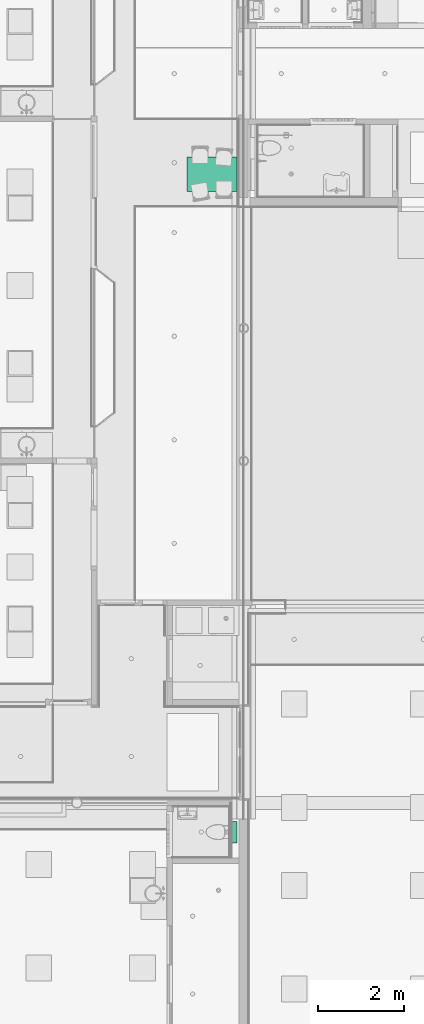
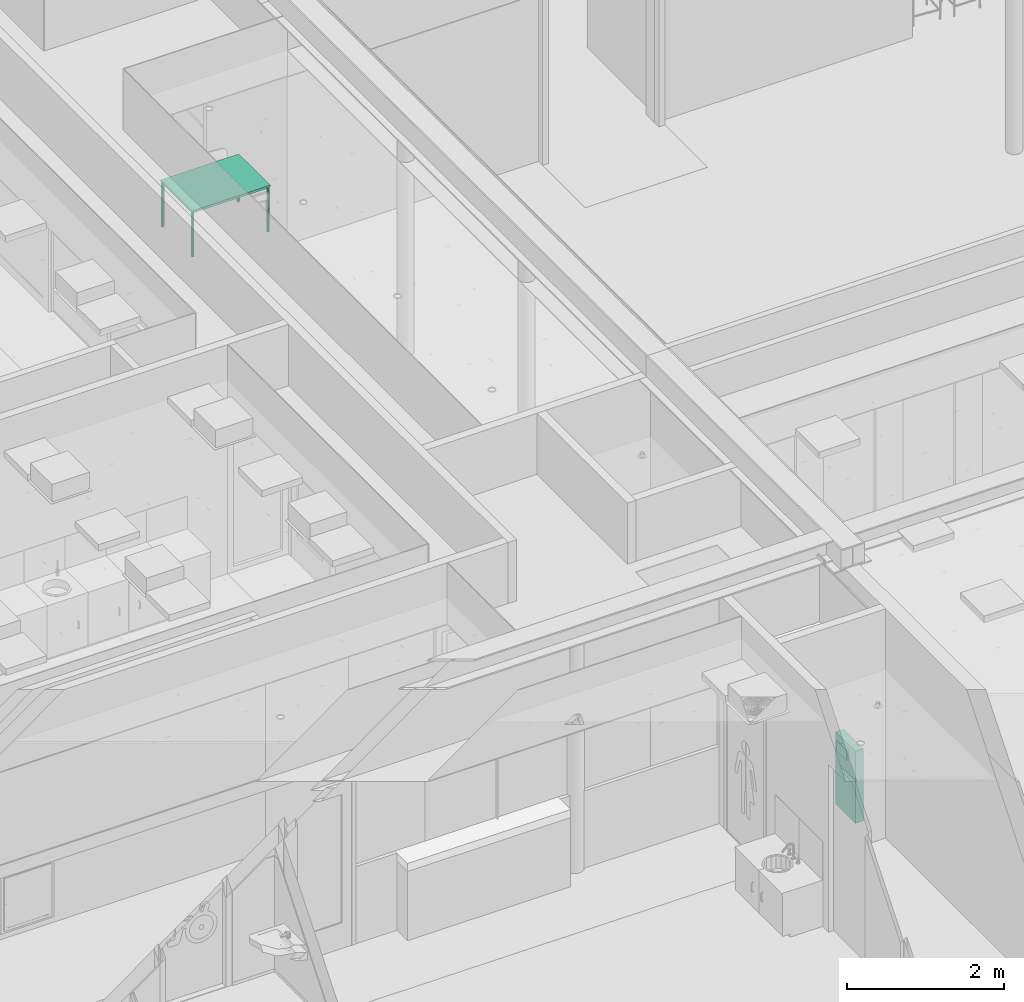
# One storey, part 178 of 347: 1 distribution element, 1 flow terminal.
"""IFC2X3 building model written with IfcOpenShell, lengths in millimetres."""

from ifc_helpers import new_model, entity, si_unit, converted_unit, derived_unit, money_unit, direction, frame, origin_with_axes, place, context, subcontext, project, spatial, open_shell, faceted_brep, surface_model, source, transform, mapped, type_object, type_shapes, element, save


model = new_model("IFC2X3")

# Units and contexts
model_context = context("Model", 3, precision=0.01, world=origin_with_axes(), true_north=direction((0.0, 1.0)))
plan_context = context("Plan", 3, precision=0.01, world=origin_with_axes(), true_north=direction((0.0, 1.0)))
body_context = subcontext(model_context, "Body", "Model", "MODEL_VIEW")
ifc_project = project(units=[si_unit("LENGTHUNIT", "METRE", prefix="MILLI"), si_unit("AREAUNIT", "SQUARE_METRE"), si_unit("VOLUMEUNIT", "CUBIC_METRE"), converted_unit("PLANEANGLEUNIT", "DEGREE", entity("IfcPlaneAngleMeasure", 0.0174532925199), si_unit("PLANEANGLEUNIT", "RADIAN"), dimensions=[0, 0, 0, 0, 0, 0, 0]), money_unit("EUR"), converted_unit("TIMEUNIT", "Year", entity("IfcTimeMeasure", 31556926.0), si_unit("TIMEUNIT", "SECOND"), dimensions=[0, 0, 1, 0, 0, 0, 0]), si_unit("MASSUNIT", "GRAM", prefix="KILO"), si_unit("THERMODYNAMICTEMPERATUREUNIT", "DEGREE_CELSIUS"), si_unit("LUMINOUSINTENSITYUNIT", "LUMEN"), si_unit("ENERGYUNIT", "JOULE", prefix="MEGA"), derived_unit("THERMALCONDUCTANCEUNIT", [(si_unit("POWERUNIT", "WATT"), 1), (si_unit("LENGTHUNIT", "METRE"), -1), (si_unit("THERMODYNAMICTEMPERATUREUNIT", "KELVIN"), -1)]), derived_unit("SPECIFICHEATCAPACITYUNIT", [(si_unit("ENERGYUNIT", "JOULE"), 1), (si_unit("MASSUNIT", "GRAM", prefix="KILO"), -1), (si_unit("THERMODYNAMICTEMPERATUREUNIT", "KELVIN"), -1)]), derived_unit("MASSDENSITYUNIT", [(si_unit("MASSUNIT", "GRAM", prefix="KILO"), 1), (si_unit("VOLUMEUNIT", "CUBIC_METRE"), -1)])], contexts=[model_context, plan_context])

# Site, building, storey
site_placement = place(None, origin_with_axes())
site = spatial("IfcSite", under=ifc_project, at=site_placement, Name="Site", CompositionType="ELEMENT")
building_placement = place(site_placement, origin_with_axes())
building = spatial("IfcBuilding", under=site, at=building_placement, Name="Naam gebouw", CompositionType="ELEMENT")
storey_placement = place(building_placement, origin_with_axes())
storey = spatial("IfcBuildingStorey", under=building, at=storey_placement, Name="begane grond", CompositionType="ELEMENT", Elevation=0.0)

# Flow terminal
sanitary_terminal_type = type_object("IfcSanitaryTerminalType", Name="Inbouwreservoir 25 KM", PredefinedType="CISTERN")
shared_shape_1 = source(origin_with_axes(), body_context, "Body", "SurfaceModel", [
    faceted_brep([(0.0, 0.0, 0.0), (500.0, 0.0, 0.0), (500.0, 0.0, 1120.0), (0.0, 0.0, 1120.0), (0.0, 120.0, 0.0), (500.0, 120.0, 0.0), (500.0, 120.0, 1120.0), (0.0, 120.0, 1120.0)], [[[0, 1, 2, 3]], [[0, 4, 5, 1]], [[1, 5, 6, 2]], [[3, 2, 6, 7]], [[4, 0, 3, 7]], [[5, 4, 7, 6]]]),
    surface_model("IfcShellBasedSurfaceModel", [(1.0, 0.0, 0.0), (499.0, 0.0, 0.0), (499.0, 120.0, 1120.0), (1.0, 120.0, 1120.0)], [open_shell([[[0, 1, 2, 3]]])]),
    surface_model("IfcShellBasedSurfaceModel", [(1.0, 0.0, 1120.0), (499.0, 0.0, 1120.0), (499.0, 120.0, 0.0), (1.0, 120.0, 0.0)], [open_shell([[[0, 1, 2, 3]]])]),
    faceted_brep([(375.0, -60.0, 920.0), (125.0, -60.0, 920.0), (125.0, -50.0, 920.0), (375.0, -50.0, 920.0), (375.0, -60.0, 1080.0), (125.0, -60.0, 1080.0), (125.0, -50.0, 1080.0), (375.0, -50.0, 1080.0)], [[[0, 1, 2, 3]], [[1, 0, 4, 5]], [[2, 1, 5, 6]], [[3, 2, 6, 7]], [[0, 3, 7, 4]], [[5, 4, 7, 6]]]),
    faceted_brep([(325.0, 0.0, 950.0), (175.0, 0.0, 950.0), (175.0, 0.0, 1050.0), (325.0, 0.0, 1050.0), (325.0, -50.0, 950.0), (175.0, -50.0, 950.0), (175.0, -50.0, 1050.0), (325.0, -50.0, 1050.0)], [[[0, 1, 2, 3]], [[1, 0, 4, 5]], [[2, 1, 5, 6]], [[3, 2, 6, 7]], [[0, 3, 7, 4]], [[5, 4, 7, 6]]]),
    surface_model("IfcShellBasedSurfaceModel", [(175.0, -60.0, 920.0), (325.0, -60.0, 920.0), (325.0, -60.0, 955.0), (175.0, -60.0, 955.0)], [open_shell([[[0, 1, 2, 3]]])]),
    surface_model("IfcShellBasedSurfaceModel", [(175.0, -60.0, 955.0), (265.0, -60.0, 955.0), (265.0, -60.0, 1045.0), (175.0, -60.0, 1045.0)], [open_shell([[[0, 1, 2, 3]]])]),
    surface_model("IfcShellBasedSurfaceModel", [(265.0, -60.0, 955.0), (325.0, -60.0, 955.0), (325.0, -60.0, 1045.0), (265.0, -60.0, 1045.0)], [open_shell([[[0, 1, 2, 3]]])]),
])
type_shapes(sanitary_terminal_type, [shared_shape_1])
flow_terminal_placement = place(storey_placement, frame((35325.0, 11700.0, 0.0), z_axis=(0.0, 0.0, 1.0), x_axis=(0.0, -1.0, 0.0)))
element("IfcFlowTerminal", 1, at=flow_terminal_placement, inside=storey, type_object=sanitary_terminal_type, Name="53_Sanitair-inbouw DuoFix", context=body_context, shape_type="MappedRepresentation", body=[
    mapped(shared_shape_1, transform((0.0, 0.0, 0.0))),
])

# Distribution element
distribution_element_type = type_object("IfcDistributionElementType", Name="Tafel rechthoekig 01 25")
shared_shape_2 = source(origin_with_axes(), body_context, "Body", "Brep", [
    faceted_brep([(37.3205080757, 10.0, 0.0), (30.0, 2.67949192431, 0.0), (20.0, 0.0, 0.0), (10.0, 2.67949192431, 0.0), (2.67949192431, 10.0, 0.0), (0.0, 20.0, 0.0), (2.67949192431, 30.0, 0.0), (10.0, 37.3205080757, 0.0), (20.0, 40.0, 0.0), (30.0, 37.3205080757, 0.0), (37.3205080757, 30.0, 0.0), (40.0, 20.0, 0.0), (37.3205080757, 10.0, 700.0), (30.0, 2.67949192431, 700.0), (20.0, 0.0, 700.0), (10.0, 2.67949192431, 700.0), (2.67949192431, 10.0, 700.0), (0.0, 20.0, 700.0), (2.67949192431, 30.0, 700.0), (10.0, 37.3205080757, 700.0), (20.0, 40.0, 700.0), (30.0, 37.3205080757, 700.0), (37.3205080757, 30.0, 700.0), (40.0, 20.0, 700.0)], [[[0, 1, 2, 3, 4, 5, 6, 7, 8, 9, 10, 11]], [[1, 0, 12, 13]], [[2, 1, 13, 14]], [[3, 2, 14, 15]], [[4, 3, 15, 16]], [[5, 4, 16, 17]], [[6, 5, 17, 18]], [[7, 6, 18, 19]], [[8, 7, 19, 20]], [[9, 8, 20, 21]], [[10, 9, 21, 22]], [[11, 10, 22, 23]], [[0, 11, 23, 12]], [[12, 23, 22, 21, 20, 19, 18, 17, 16, 15, 14, 13]]]),
    faceted_brep([(1147.32050808, 10.0, 0.0), (1140.0, 2.67949192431, 0.0), (1130.0, 0.0, 0.0), (1120.0, 2.67949192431, 0.0), (1112.67949192, 10.0, 0.0), (1110.0, 20.0, 0.0), (1112.67949192, 30.0, 0.0), (1120.0, 37.3205080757, 0.0), (1130.0, 40.0, 0.0), (1140.0, 37.3205080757, 0.0), (1147.32050808, 30.0, 0.0), (1150.0, 20.0, 0.0), (1147.32050808, 10.0, 700.0), (1140.0, 2.67949192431, 700.0), (1130.0, 0.0, 700.0), (1120.0, 2.67949192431, 700.0), (1112.67949192, 10.0, 700.0), (1110.0, 20.0, 700.0), (1112.67949192, 30.0, 700.0), (1120.0, 37.3205080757, 700.0), (1130.0, 40.0, 700.0), (1140.0, 37.3205080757, 700.0), (1147.32050808, 30.0, 700.0), (1150.0, 20.0, 700.0)], [[[0, 1, 2, 3, 4, 5, 6, 7, 8, 9, 10, 11]], [[1, 0, 12, 13]], [[2, 1, 13, 14]], [[3, 2, 14, 15]], [[4, 3, 15, 16]], [[5, 4, 16, 17]], [[6, 5, 17, 18]], [[7, 6, 18, 19]], [[8, 7, 19, 20]], [[9, 8, 20, 21]], [[10, 9, 21, 22]], [[11, 10, 22, 23]], [[0, 11, 23, 12]], [[12, 23, 22, 21, 20, 19, 18, 17, 16, 15, 14, 13]]]),
    faceted_brep([(37.3205080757, 770.0, 0.0), (30.0, 762.679491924, 0.0), (20.0, 760.0, 0.0), (10.0, 762.679491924, 0.0), (2.67949192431, 770.0, 0.0), (0.0, 780.0, 0.0), (2.67949192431, 790.0, 0.0), (10.0, 797.320508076, 0.0), (20.0, 800.0, 0.0), (30.0, 797.320508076, 0.0), (37.3205080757, 790.0, 0.0), (40.0, 780.0, 0.0), (37.3205080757, 770.0, 700.0), (30.0, 762.679491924, 700.0), (20.0, 760.0, 700.0), (10.0, 762.679491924, 700.0), (2.67949192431, 770.0, 700.0), (0.0, 780.0, 700.0), (2.67949192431, 790.0, 700.0), (10.0, 797.320508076, 700.0), (20.0, 800.0, 700.0), (30.0, 797.320508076, 700.0), (37.3205080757, 790.0, 700.0), (40.0, 780.0, 700.0)], [[[0, 1, 2, 3, 4, 5, 6, 7, 8, 9, 10, 11]], [[1, 0, 12, 13]], [[2, 1, 13, 14]], [[3, 2, 14, 15]], [[4, 3, 15, 16]], [[5, 4, 16, 17]], [[6, 5, 17, 18]], [[7, 6, 18, 19]], [[8, 7, 19, 20]], [[9, 8, 20, 21]], [[10, 9, 21, 22]], [[11, 10, 22, 23]], [[0, 11, 23, 12]], [[12, 23, 22, 21, 20, 19, 18, 17, 16, 15, 14, 13]]]),
    faceted_brep([(1147.32050808, 770.0, 0.0), (1140.0, 762.679491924, 0.0), (1130.0, 760.0, 0.0), (1120.0, 762.679491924, 0.0), (1112.67949192, 770.0, 0.0), (1110.0, 780.0, 0.0), (1112.67949192, 790.0, 0.0), (1120.0, 797.320508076, 0.0), (1130.0, 800.0, 0.0), (1140.0, 797.320508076, 0.0), (1147.32050808, 790.0, 0.0), (1150.0, 780.0, 0.0), (1147.32050808, 770.0, 700.0), (1140.0, 762.679491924, 700.0), (1130.0, 760.0, 700.0), (1120.0, 762.679491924, 700.0), (1112.67949192, 770.0, 700.0), (1110.0, 780.0, 700.0), (1112.67949192, 790.0, 700.0), (1120.0, 797.320508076, 700.0), (1130.0, 800.0, 700.0), (1140.0, 797.320508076, 700.0), (1147.32050808, 790.0, 700.0), (1150.0, 780.0, 700.0)], [[[0, 1, 2, 3, 4, 5, 6, 7, 8, 9, 10, 11]], [[1, 0, 12, 13]], [[2, 1, 13, 14]], [[3, 2, 14, 15]], [[4, 3, 15, 16]], [[5, 4, 16, 17]], [[6, 5, 17, 18]], [[7, 6, 18, 19]], [[8, 7, 19, 20]], [[9, 8, 20, 21]], [[10, 9, 21, 22]], [[11, 10, 22, 23]], [[0, 11, 23, 12]], [[12, 23, 22, 21, 20, 19, 18, 17, 16, 15, 14, 13]]]),
    faceted_brep([(1150.0, 0.0, 700.0), (0.0, 0.0, 700.0), (0.0, 800.0, 700.0), (1150.0, 800.0, 700.0), (1150.0, 0.0, 720.0), (0.0, 0.0, 720.0), (0.0, 800.0, 720.0), (1150.0, 800.0, 720.0)], [[[0, 1, 2, 3]], [[1, 0, 4, 5]], [[2, 1, 5, 6]], [[3, 2, 6, 7]], [[0, 3, 7, 4]], [[5, 4, 7, 6]]]),
    faceted_brep([(1110.0, 10.0, 675.0), (40.0, 10.0, 675.0), (40.0, 30.0, 675.0), (1110.0, 30.0, 675.0), (1110.0, 10.0, 700.0), (40.0, 10.0, 700.0), (40.0, 30.0, 700.0), (1110.0, 30.0, 700.0)], [[[0, 1, 2, 3]], [[1, 0, 4, 5]], [[2, 1, 5, 6]], [[3, 2, 6, 7]], [[0, 3, 7, 4]], [[5, 4, 7, 6]]]),
    faceted_brep([(30.0, 40.0, 675.0), (10.0, 40.0, 675.0), (10.0, 760.0, 675.0), (30.0, 760.0, 675.0), (30.0, 40.0, 700.0), (10.0, 40.0, 700.0), (10.0, 760.0, 700.0), (30.0, 760.0, 700.0)], [[[0, 1, 2, 3]], [[1, 0, 4, 5]], [[2, 1, 5, 6]], [[3, 2, 6, 7]], [[0, 3, 7, 4]], [[5, 4, 7, 6]]]),
    faceted_brep([(40.0, 790.0, 675.0), (1110.0, 790.0, 675.0), (1110.0, 770.0, 675.0), (40.0, 770.0, 675.0), (40.0, 790.0, 700.0), (1110.0, 790.0, 700.0), (1110.0, 770.0, 700.0), (40.0, 770.0, 700.0)], [[[0, 1, 2, 3]], [[1, 0, 4, 5]], [[2, 1, 5, 6]], [[3, 2, 6, 7]], [[0, 3, 7, 4]], [[5, 4, 7, 6]]]),
    faceted_brep([(1120.0, 760.0, 675.0), (1140.0, 760.0, 675.0), (1140.0, 40.0, 675.0), (1120.0, 40.0, 675.0), (1120.0, 760.0, 700.0), (1140.0, 760.0, 700.0), (1140.0, 40.0, 700.0), (1120.0, 40.0, 700.0)], [[[0, 1, 2, 3]], [[1, 0, 4, 5]], [[2, 1, 5, 6]], [[3, 2, 6, 7]], [[0, 3, 7, 4]], [[5, 4, 7, 6]]]),
])
type_shapes(distribution_element_type, [shared_shape_2])
distribution_element_placement = place(storey_placement, frame((34294.9999994, 26290.0, 0.0), z_axis=(0.0, 0.0, 1.0), x_axis=(1.0, 0.0, 0.0)))
element("IfcDistributionElement", 2, at=distribution_element_placement, inside=storey, type_object=distribution_element_type, Name="65 Beveiliging_73 pantryblok", context=body_context, shape_type="MappedRepresentation", body=[
    mapped(shared_shape_2, transform((0.0, 0.0, 0.0))),
])

save(model, "model.ifc")
